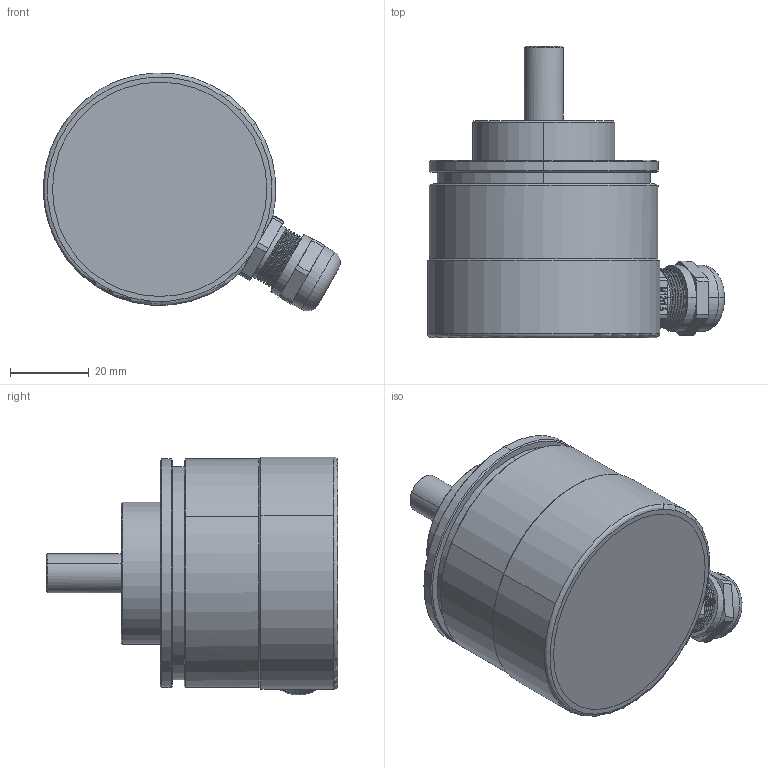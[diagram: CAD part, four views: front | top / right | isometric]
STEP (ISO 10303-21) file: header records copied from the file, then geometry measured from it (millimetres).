
FILE_DESCRIPTION (( 'STEP AP203' ), '1' );
FILE_NAME ('上海了淼自动化多圈绝对值编码器.STEP', '2020-12-03T05:06:30', ( '' ), ( 'Microsoft' ), 'SwSTEP 2.0', 'SolidWorks 2016', '' );
FILE_SCHEMA (( 'CONFIG_CONTROL_DESIGN' ));
Length unit declared in the file: millimetre
Products named in the file (1): 上海了淼自动化多圈绝对值编码器
Bounding box: 75.38 x 74 x 60.36 mm (x, y, z)
Volume: 134364.2 mm3; surface area: 18175.7 mm2
Topology: 1 solids, 1 shells, 289 faces, 838 edges, 546 vertices
Faces by surface type: plane 153, cylinder 57, bspline 50, cone 26, torus 3
Entity records: 16408 total; most frequent: CARTESIAN_POINT 9182, ORIENTED_EDGE 1664, DIRECTION 1252, EDGE_CURVE 832, VERTEX_POINT 546, VECTOR 456, LINE 456, AXIS2_PLACEMENT_3D 398
